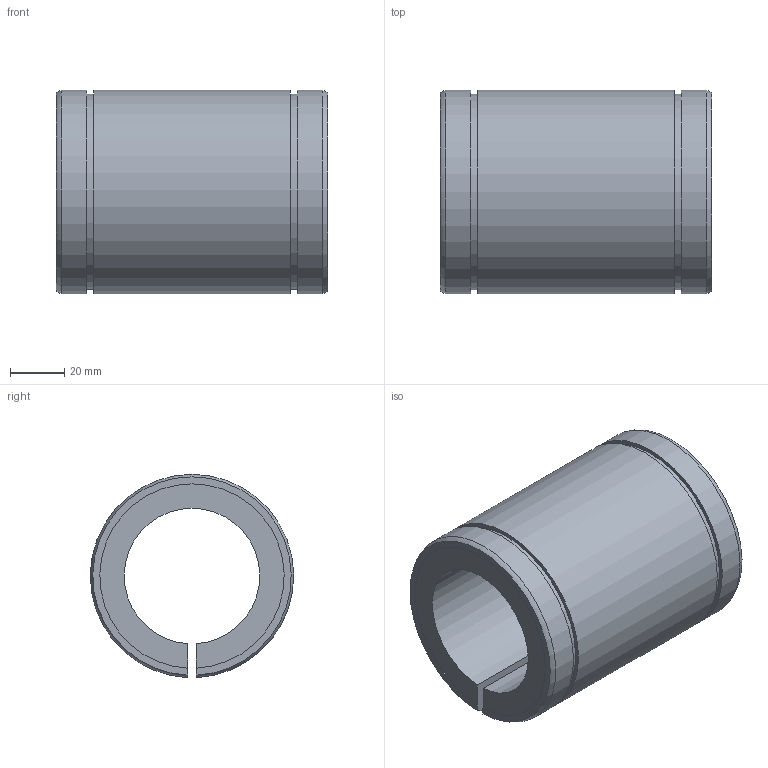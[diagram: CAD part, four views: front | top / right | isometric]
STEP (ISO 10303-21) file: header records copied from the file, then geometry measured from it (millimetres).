
FILE_DESCRIPTION((''),'2;1');
FILE_NAME('D:\製品 (図面)\カタログ用3D\リニアベアリング関連\STEP形式\LE-ADJ\LE50-ADJ.stp','2010-06-03T09:08:59',('Tsuchiya'),(''),'Autodesk Inventor 10','Autodesk Inventor 10','');
FILE_SCHEMA(('AUTOMOTIVE_DESIGN { 1 0 10303 214 1 1 1 1 }'));
Length unit declared in the file: millimetre
Products named in the file (1): LE50-ADJ
Bounding box: 100 x 74.98 x 74.97 mm (x, y, z)
Volume: 239225.8 mm3; surface area: 46979.2 mm2
Topology: 1 solids, 1 shells, 20 faces, 54 edges, 36 vertices
Faces by surface type: plane 10, cylinder 8, torus 2
Entity records: 687 total; most frequent: CARTESIAN_POINT 147, DIRECTION 110, ORIENTED_EDGE 108, EDGE_CURVE 54, AXIS2_PLACEMENT_3D 39, VERTEX_POINT 36, VECTOR 32, LINE 32
